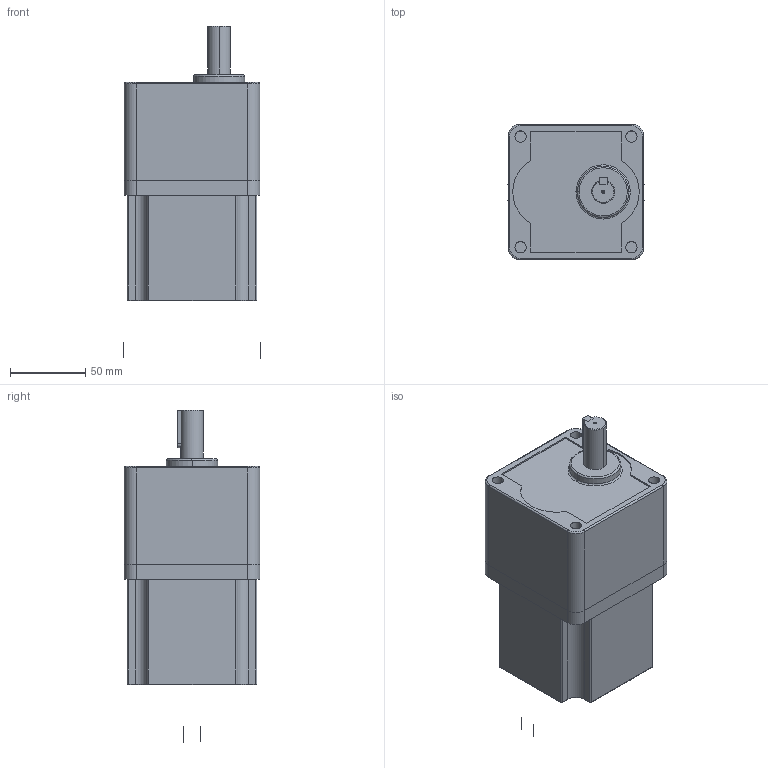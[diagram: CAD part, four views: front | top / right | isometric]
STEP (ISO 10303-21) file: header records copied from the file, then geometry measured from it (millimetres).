
FILE_DESCRIPTION (( 'STEP AP203' ), '1' );
FILE_NAME ('TM3401GU40A+5GU（L15）.STEP', '2026-07-20T03:22:51', ( 'user' ), ( '微软中国' ), 'SwSTEP 2.0', 'SolidWorks 2014', '' );
FILE_SCHEMA (( 'CONFIG_CONTROL_DESIGN' ));
Length unit declared in the file: millimetre
Products named in the file (1): TM3401GU40A+5GU（L15）
Bounding box: 91 x 90 x 220.45 mm (x, y, z)
Surface area: 99774 mm2 (no closed solid volume)
Topology: 0 solids, 11 shells, 131 faces, 357 edges, 240 vertices
Faces by surface type: cylinder 63, plane 42, torus 21, cone 5
Entity records: 4621 total; most frequent: CARTESIAN_POINT 1166, DIRECTION 764, ORIENTED_EDGE 637, EDGE_CURVE 357, AXIS2_PLACEMENT_3D 292, VERTEX_POINT 240, LINE 180, VECTOR 180
